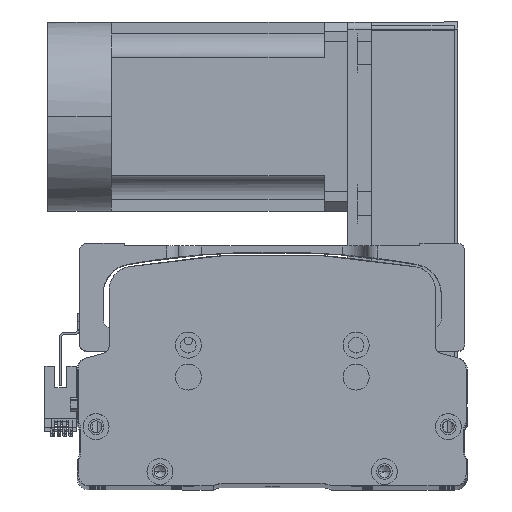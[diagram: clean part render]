
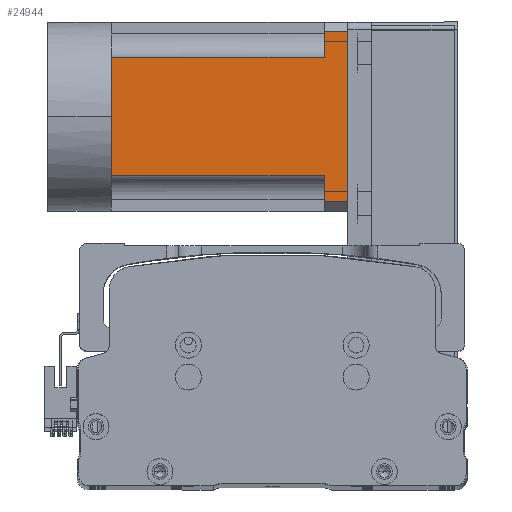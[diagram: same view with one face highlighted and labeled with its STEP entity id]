
A CAD part, top view. The second image highlights one B-rep face of the part: STEP entity #24944.
In plain terms, the highlighted planar face has unit normal (0, 0, 1) as drawn and (0, 0, -1) by its records, which use the part's own axes.
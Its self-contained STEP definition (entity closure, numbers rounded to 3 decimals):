
#193 = CARTESIAN_POINT ( 'NONE',  ( -40., 0., -40. ) ) ;
#1260 = EDGE_CURVE ( 'NONE', #63287, #3903, #9706, .T. ) ;
#1816 = ORIENTED_EDGE ( 'NONE', *, *, #2780, .T. ) ;
#2780 = EDGE_CURVE ( 'NONE', #38773, #34851, #27179, .T. ) ;
#3903 = VERTEX_POINT ( 'NONE', #33325 ) ;
#4065 = VECTOR ( 'NONE', #60047, 1000. ) ;
#4939 = ORIENTED_EDGE ( 'NONE', *, *, #53051, .T. ) ;
#5177 = ORIENTED_EDGE ( 'NONE', *, *, #22052, .T. ) ;
#6338 = LINE ( 'NONE', #19653, #57149 ) ;
#9706 = LINE ( 'NONE', #40289, #47391 ) ;
#11848 = CARTESIAN_POINT ( 'NONE',  ( -25., -27., -40. ) ) ;
#16129 = LINE ( 'NONE', #63696, #53791 ) ;
#16422 = ORIENTED_EDGE ( 'NONE', *, *, #24527, .T. ) ;
#16533 = CARTESIAN_POINT ( 'NONE',  ( 0., 0., -40. ) ) ;
#16643 = DIRECTION ( 'NONE',  ( 0., 1., 0. ) ) ;
#17227 = LINE ( 'NONE', #59831, #4065 ) ;
#19105 = DIRECTION ( 'NONE',  ( 0., 1., 0. ) ) ;
#19522 = PLANE ( 'NONE',  #50626 ) ;
#19653 = CARTESIAN_POINT ( 'NONE',  ( -40., 90., -40. ) ) ;
#20439 = LINE ( 'NONE', #49178, #21487 ) ;
#21487 = VECTOR ( 'NONE', #24274, 1000. ) ;
#22052 = EDGE_CURVE ( 'NONE', #28617, #38773, #17227, .T. ) ;
#24274 = DIRECTION ( 'NONE',  ( 0., -1., 0. ) ) ;
#24527 = EDGE_CURVE ( 'NONE', #63362, #28617, #50048, .T. ) ;
#24933 = EDGE_CURVE ( 'NONE', #53275, #3903, #16129, .T. ) ;
#24944 = ADVANCED_FACE ( 'NONE', ( #40678 ), #19522, .T. ) ;
#25154 = CARTESIAN_POINT ( 'NONE',  ( -25., 90., -40. ) ) ;
#27109 = VECTOR ( 'NONE', #38547, 1000. ) ;
#27179 = LINE ( 'NONE', #11848, #40217 ) ;
#28617 = VERTEX_POINT ( 'NONE', #16533 ) ;
#28751 = DIRECTION ( 'NONE',  ( -1., 0., 0. ) ) ;
#29414 = DIRECTION ( 'NONE',  ( 0., 0., -1. ) ) ;
#29443 = CARTESIAN_POINT ( 'NONE',  ( 25., 90., -40. ) ) ;
#32327 = ORIENTED_EDGE ( 'NONE', *, *, #43693, .T. ) ;
#33325 = CARTESIAN_POINT ( 'NONE',  ( -36., 100., -40. ) ) ;
#33968 = CARTESIAN_POINT ( 'NONE',  ( 36., 100., -40. ) ) ;
#34851 = VERTEX_POINT ( 'NONE', #25154 ) ;
#35356 = DIRECTION ( 'NONE',  ( -1., 0., 0. ) ) ;
#36556 = CARTESIAN_POINT ( 'NONE',  ( -36., 90., -40. ) ) ;
#38033 = ORIENTED_EDGE ( 'NONE', *, *, #49176, .T. ) ;
#38326 = CARTESIAN_POINT ( 'NONE',  ( 36., -27., -40. ) ) ;
#38547 = DIRECTION ( 'NONE',  ( 0., -1., 0. ) ) ;
#38773 = VERTEX_POINT ( 'NONE', #56877 ) ;
#39503 = DIRECTION ( 'NONE',  ( -1., 0., 0. ) ) ;
#39951 = CARTESIAN_POINT ( 'NONE',  ( 25., 0., -40. ) ) ;
#40217 = VECTOR ( 'NONE', #16643, 1000. ) ;
#40289 = CARTESIAN_POINT ( 'NONE',  ( -40., 100., -40. ) ) ;
#40535 = ORIENTED_EDGE ( 'NONE', *, *, #50765, .T. ) ;
#40678 = FACE_OUTER_BOUND ( 'NONE', #52534, .T. ) ;
#41707 = LINE ( 'NONE', #38326, #27109 ) ;
#42801 = CARTESIAN_POINT ( 'NONE',  ( 36., 90., -40. ) ) ;
#43693 = EDGE_CURVE ( 'NONE', #57270, #63362, #20439, .T. ) ;
#47391 = VECTOR ( 'NONE', #35356, 1000. ) ;
#47823 = VERTEX_POINT ( 'NONE', #42801 ) ;
#48914 = LINE ( 'NONE', #63234, #62103 ) ;
#49176 = EDGE_CURVE ( 'NONE', #63287, #47823, #41707, .T. ) ;
#49178 = CARTESIAN_POINT ( 'NONE',  ( 25., -27., -40. ) ) ;
#50048 = LINE ( 'NONE', #193, #61658 ) ;
#50626 = AXIS2_PLACEMENT_3D ( 'NONE', #58913, #29414, #63900 ) ;
#50765 = EDGE_CURVE ( 'NONE', #34851, #53275, #48914, .T. ) ;
#52534 = EDGE_LOOP ( 'NONE', ( #55549, #38033, #4939, #32327, #16422, #5177, #1816, #40535, #60423 ) ) ;
#53051 = EDGE_CURVE ( 'NONE', #47823, #57270, #6338, .T. ) ;
#53275 = VERTEX_POINT ( 'NONE', #36556 ) ;
#53791 = VECTOR ( 'NONE', #19105, 1000. ) ;
#55549 = ORIENTED_EDGE ( 'NONE', *, *, #1260, .F. ) ;
#56877 = CARTESIAN_POINT ( 'NONE',  ( -25., 0., -40. ) ) ;
#57149 = VECTOR ( 'NONE', #59056, 1000. ) ;
#57270 = VERTEX_POINT ( 'NONE', #29443 ) ;
#58913 = CARTESIAN_POINT ( 'NONE',  ( -40., -27., -40. ) ) ;
#59056 = DIRECTION ( 'NONE',  ( -1., 0., 0. ) ) ;
#59831 = CARTESIAN_POINT ( 'NONE',  ( -40., 0., -40. ) ) ;
#60047 = DIRECTION ( 'NONE',  ( -1., 0., 0. ) ) ;
#60423 = ORIENTED_EDGE ( 'NONE', *, *, #24933, .T. ) ;
#61658 = VECTOR ( 'NONE', #39503, 1000. ) ;
#62103 = VECTOR ( 'NONE', #28751, 1000. ) ;
#63234 = CARTESIAN_POINT ( 'NONE',  ( -40., 90., -40. ) ) ;
#63287 = VERTEX_POINT ( 'NONE', #33968 ) ;
#63362 = VERTEX_POINT ( 'NONE', #39951 ) ;
#63696 = CARTESIAN_POINT ( 'NONE',  ( -36., -27., -40. ) ) ;
#63900 = DIRECTION ( 'NONE',  ( -1., 0., 0. ) ) ;
